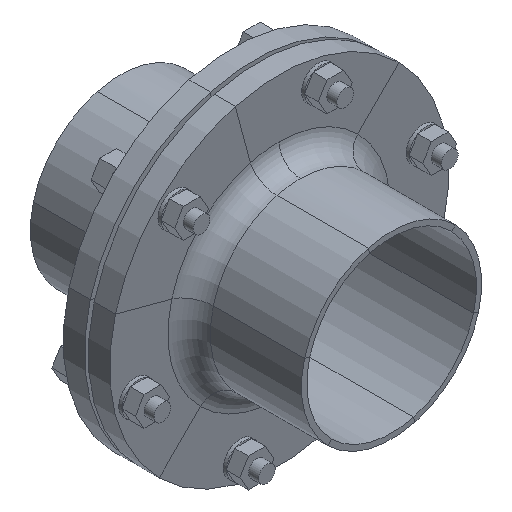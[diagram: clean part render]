
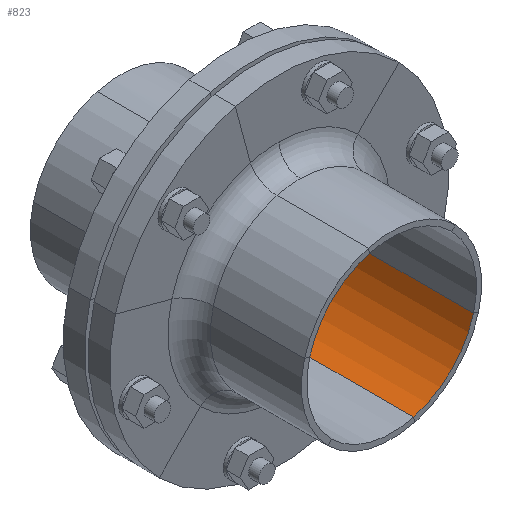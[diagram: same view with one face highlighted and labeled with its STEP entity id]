
A CAD part, isometric view. The second image highlights one B-rep face of the part: STEP entity #823.
In plain terms, the highlighted cylindrical face has radius 50.8 mm (diameter 101.6 mm), a partial arc.
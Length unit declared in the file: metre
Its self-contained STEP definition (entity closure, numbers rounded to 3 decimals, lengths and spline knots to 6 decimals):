
#823 = ADVANCED_FACE( '0:760', ( #1799 ), #1800, .F. );
#1799 = FACE_OUTER_BOUND( '', #3019, .T. );
#1800 = CYLINDRICAL_SURFACE( '', #3020, 0.0508 );
#3019 = EDGE_LOOP( '', ( #4912, #4913, #4914, #4915 ) );
#3020 = AXIS2_PLACEMENT_3D( '', #4916, #4917, #4918 );
#4912 = ORIENTED_EDGE( '', *, *, #6940, .F. );
#4913 = ORIENTED_EDGE( '', *, *, #7291, .T. );
#4914 = ORIENTED_EDGE( '', *, *, #7427, .T. );
#4915 = ORIENTED_EDGE( '', *, *, #7428, .F. );
#4916 = CARTESIAN_POINT( '', ( 0., 0., 0. ) );
#4917 = DIRECTION( '', ( 0., 1., 0. ) );
#4918 = DIRECTION( '', ( 0.707, 0., 0.707 ) );
#6940 = EDGE_CURVE( '0:744', #8395, #8397, #8398, .T. );
#7291 = EDGE_CURVE( '0:724', #8395, #8968, #8970, .T. );
#7427 = EDGE_CURVE( '0:745', #8968, #9174, #9175, .T. );
#7428 = EDGE_CURVE( '0:746', #8397, #9174, #9176, .T. );
#8395 = VERTEX_POINT( '', #10486 );
#8397 = VERTEX_POINT( '', #10489 );
#8398 = LINE( '', #10490, #10491 );
#8968 = VERTEX_POINT( '', #11238 );
#8970 = CIRCLE( '', #11241, 0.0508 );
#9174 = VERTEX_POINT( '', #11500 );
#9175 = LINE( '', #11501, #11502 );
#9176 = CIRCLE( '', #11503, 0.0508 );
#10486 = CARTESIAN_POINT( '', ( 0.049069, -0.000397, -0.013148 ) );
#10489 = CARTESIAN_POINT( '', ( 0.049069, -0.081197, -0.013148 ) );
#10490 = CARTESIAN_POINT( '', ( 0.049069, -0.000397, -0.013148 ) );
#10491 = VECTOR( '', #12541, 1. );
#11238 = CARTESIAN_POINT( '', ( 0.013148, -0.000397, -0.049069 ) );
#11241 = AXIS2_PLACEMENT_3D( '', #13023, #13024, #13025 );
#11500 = CARTESIAN_POINT( '', ( 0.013148, -0.081197, -0.049069 ) );
#11501 = CARTESIAN_POINT( '', ( 0.013148, -0.000397, -0.049069 ) );
#11502 = VECTOR( '', #13216, 1. );
#11503 = AXIS2_PLACEMENT_3D( '', #13217, #13218, #13219 );
#12541 = DIRECTION( '', ( 0., -1., 0. ) );
#13023 = CARTESIAN_POINT( '', ( 0., -0.000397, 0. ) );
#13024 = DIRECTION( '', ( 0., 1., 0. ) );
#13025 = DIRECTION( '', ( 0.966, 0., -0.259 ) );
#13216 = DIRECTION( '', ( 0., -1., 0. ) );
#13217 = CARTESIAN_POINT( '', ( 0., -0.081197, 0. ) );
#13218 = DIRECTION( '', ( 0., 1., 0. ) );
#13219 = DIRECTION( '', ( 0.966, 0., -0.259 ) );
